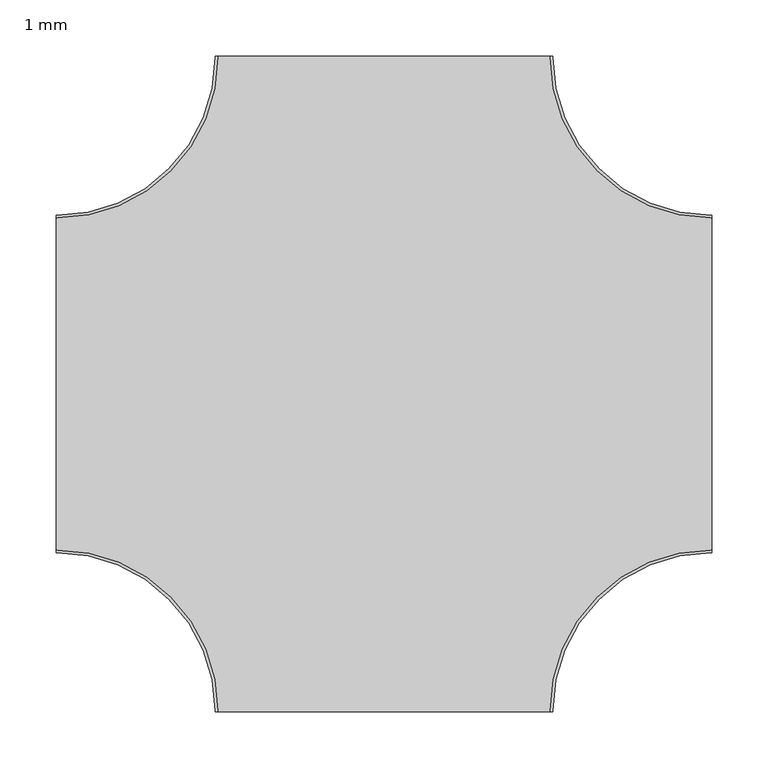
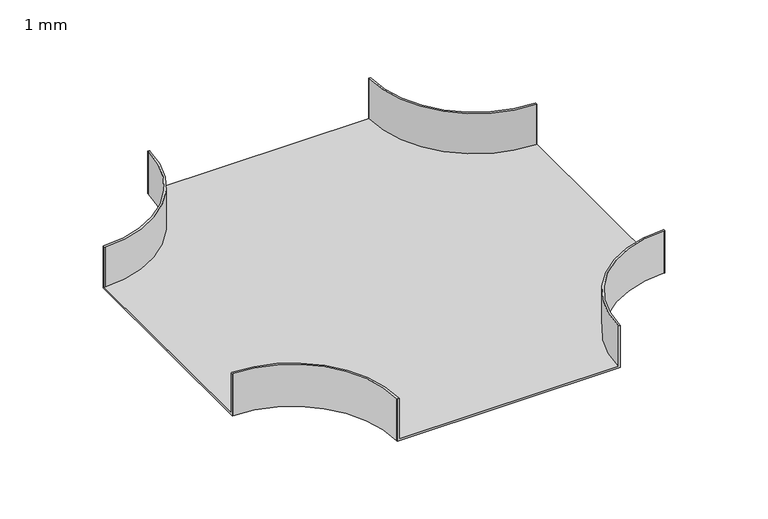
"""IFC4 building model written with IfcOpenShell, lengths in millimetres: cable carrier fitting geometry, BAKS_Czwórnik_koryta (R140) : 1 mm."""

from ifc_helpers import new_model, si_unit, frame, origin, place, context, project, spatial, polyline, circle_curve, source, transform, mapped, element, save
from ifc_brep_helpers import plane_surface, cylinder_surface, revolved_surface, advanced_brep


def cable_carrier_fitting_1_mm_367de262(model_context):
    return source(origin(), model_context, "Body", "AdvancedBrep", [
        advanced_brep(
        [(-150.0, -290.0, 30.0), (-150.0, -291.0, 30.0), (-147.46, -291.0, 30.0), (-147.46, -290.0, 30.0), (-290.0, -147.46, 30.0), (-291.0, -147.46, 30.0), (-291.0, -150.0, 30.0), (-290.0, -150.0, 30.0), (150.0, -290.0, 30.0), (290.0, -150.0, 30.0), (291.0, -150.0, 30.0), (291.0, -147.46, 30.0), (290.0, -147.46, 30.0), (147.46, -290.0, 30.0), (147.46, -291.0, 30.0), (150.0, -291.0, 30.0), (-290.0, 150.0, 30.0), (-291.0, 150.0, 30.0), (-291.0, 147.46, 30.0), (-290.0, 147.46, 30.0), (-147.46, 290.0, 30.0), (-147.46, 291.0, 30.0), (-150.0, 291.0, 30.0), (-150.0, 290.0, 30.0), (147.46, 290.0, 30.0), (290.0, 147.46, 30.0), (291.0, 147.46, 30.0), (291.0, 150.0, 30.0), (290.0, 150.0, 30.0), (150.0, 290.0, 30.0), (150.0, 291.0, 30.0), (147.46, 291.0, 30.0), (-150.0, -290.0, -30.0), (-290.0, -150.0, -30.0), (-291.0, -150.0, -30.0), (-291.0, 150.0, -30.0), (-290.0, 150.0, -30.0), (-150.0, 290.0, -30.0), (-150.0, 291.0, -30.0), (150.0, 291.0, -30.0), (150.0, 290.0, -30.0), (290.0, 150.0, -30.0), (291.0, 150.0, -30.0), (291.0, -150.0, -30.0), (290.0, -150.0, -30.0), (150.0, -290.0, -30.0), (150.0, -291.0, -30.0), (-150.0, -291.0, -30.0), (-150.0, -290.0, -27.46), (147.46, -291.0, -27.46), (-147.46, -291.0, -27.46), (-147.46, -290.0, -27.46), (-290.0, -147.46, -27.46), (-291.0, -147.46, -27.46), (-291.0, 147.46, -27.46), (-290.0, -150.0, -27.46), (150.0, -290.0, -27.46), (290.0, -150.0, -27.46), (291.0, 147.46, -27.46), (291.0, -147.46, -27.46), (290.0, -147.46, -27.46), (147.46, -290.0, -27.46), (290.0, 147.46, -27.46), (147.46, 290.0, -27.46), (147.46, 291.0, -27.46), (-147.46, 291.0, -27.46), (-147.46, 290.0, -27.46), (-290.0, 147.46, -27.46), (-290.0, 150.0, -27.46), (-150.0, 290.0, -27.46), (290.0, 150.0, -27.46), (150.0, 290.0, -27.46)],
        [
            (0, 1),
            (1, 2),
            (2, 3),
            (3, 4, circle_curve(frame((-290.0, -290.0, 30.0), z_axis=(0.0, 0.0, 1.0), x_axis=(1.0, 0.0, 0.0)), 142.54)),
            (4, 5),
            (5, 6),
            (6, 7),
            (7, 0, circle_curve(frame((-290.0, -290.0, 30.0), z_axis=(0.0, 0.0, -1.0), x_axis=(1.0, 0.0, 0.0)), 140.0)),
            (8, 9, circle_curve(frame((290.0, -290.0, 30.0), z_axis=(0.0, 0.0, -1.0), x_axis=(1.0, 0.0, 0.0)), 140.0)),
            (9, 10),
            (10, 11),
            (11, 12),
            (12, 13, circle_curve(frame((290.0, -290.0, 30.0), z_axis=(0.0, 0.0, 1.0), x_axis=(1.0, 0.0, 0.0)), 142.54)),
            (13, 14),
            (14, 15),
            (15, 8),
            (16, 17),
            (17, 18),
            (18, 19),
            (19, 20, circle_curve(frame((-290.0, 290.0, 30.0), z_axis=(0.0, 0.0, 1.0), x_axis=(1.0, 0.0, 0.0)), 142.54)),
            (20, 21),
            (21, 22),
            (22, 23),
            (23, 16, circle_curve(frame((-290.0, 290.0, 30.0), z_axis=(0.0, 0.0, -1.0), x_axis=(1.0, 0.0, 0.0)), 140.0)),
            (24, 25, circle_curve(frame((290.0, 290.0, 30.0), z_axis=(0.0, 0.0, 1.0), x_axis=(1.0, 0.0, 0.0)), 142.54)),
            (25, 26),
            (26, 27),
            (27, 28),
            (28, 29, circle_curve(frame((290.0, 290.0, 30.0), z_axis=(0.0, 0.0, -1.0), x_axis=(1.0, 0.0, 0.0)), 140.0)),
            (29, 30),
            (30, 31),
            (31, 24),
            (32, 33, circle_curve(frame((-290.0, -290.0, -30.0), z_axis=(0.0, 0.0, 1.0), x_axis=(1.0, 0.0, 0.0)), 140.0)),
            (33, 34),
            (34, 35),
            (35, 36),
            (36, 37, circle_curve(frame((-290.0, 290.0, -30.0), z_axis=(0.0, 0.0, 1.0), x_axis=(1.0, 0.0, 0.0)), 140.0)),
            (37, 38),
            (38, 39),
            (39, 40),
            (40, 41, circle_curve(frame((290.0, 290.0, -30.0), z_axis=(0.0, 0.0, 1.0), x_axis=(1.0, 0.0, 0.0)), 140.0)),
            (41, 42),
            (42, 43),
            (43, 44),
            (44, 45, circle_curve(frame((290.0, -290.0, -30.0), z_axis=(0.0, 0.0, 1.0), x_axis=(1.0, 0.0, 0.0)), 140.0)),
            (45, 46),
            (46, 47),
            (47, 32),
            (47, 1),
            (0, 48),
            (48, 32),
            (46, 15),
            (14, 49),
            (49, 50),
            (50, 2),
            (50, 51),
            (51, 3),
            (51, 52, circle_curve(frame((-290.0, -290.0, -27.46), z_axis=(0.0, 0.0, 1.0), x_axis=(1.0, 0.0, 0.0)), 142.54)),
            (52, 4),
            (52, 53),
            (53, 5),
            (53, 54),
            (54, 18),
            (17, 35),
            (34, 6),
            (33, 55),
            (55, 7),
            (8, 56),
            (56, 45),
            (44, 57),
            (57, 9),
            (43, 10),
            (42, 27),
            (26, 58),
            (58, 59),
            (59, 11),
            (59, 60),
            (60, 12),
            (60, 61, circle_curve(frame((290.0, -290.0, -27.46), z_axis=(0.0, 0.0, 1.0), x_axis=(1.0, 0.0, 0.0)), 142.54)),
            (61, 13),
            (61, 49),
            (58, 62),
            (62, 63, circle_curve(frame((290.0, 290.0, -27.46), z_axis=(0.0, 0.0, -1.0), x_axis=(1.0, 0.0, 0.0)), 142.54)),
            (63, 64),
            (64, 65),
            (65, 66),
            (66, 67, circle_curve(frame((-290.0, 290.0, -27.46), z_axis=(0.0, 0.0, -1.0), x_axis=(1.0, 0.0, 0.0)), 142.54)),
            (67, 54),
            (16, 68),
            (68, 36),
            (67, 19),
            (66, 20),
            (65, 21),
            (64, 31),
            (30, 39),
            (38, 22),
            (37, 69),
            (69, 23),
            (24, 63),
            (62, 25),
            (41, 70),
            (70, 28),
            (40, 71),
            (71, 29),
        ],
        [
            plane_surface(frame((-150.0, -290.0, 30.0), z_axis=(0.0, 0.0, 1.0), x_axis=(0.0, -1.0, 0.0))),
            plane_surface(frame((-150.0, -290.0, -30.0), z_axis=(0.0, 0.0, -1.0), x_axis=(0.0, 1.0, 0.0))),
            plane_surface(frame((-150.0, -290.0, 30.0), z_axis=(-1.0, 0.0, 0.0), x_axis=(0.0, 0.0, -1.0))),
            plane_surface(frame((-150.0, -291.0, 30.0), z_axis=(0.0, -1.0, 0.0), x_axis=(0.0, 0.0, -1.0))),
            plane_surface(frame((-147.46, -291.0, 30.0), z_axis=(1.0, 0.0, 0.0), x_axis=(0.0, 0.0, -1.0))),
            cylinder_surface(frame((-290.0, -290.0, -30.0), z_axis=(0.0, 0.0, 1.0), x_axis=(1.0, 0.0, 0.0)), 142.54),
            plane_surface(frame((-290.0, -147.46, 30.0), z_axis=(0.0, 1.0, 0.0), x_axis=(0.0, 0.0, -1.0))),
            plane_surface(frame((-291.0, -147.46, 30.0), z_axis=(-1.0, 0.0, 0.0), x_axis=(0.0, 0.0, -1.0))),
            plane_surface(frame((-291.0, -150.0, 30.0), z_axis=(2.8594460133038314e-12, -1.0, 0.0), x_axis=(0.0, 0.0, -1.0))),
            revolved_surface(polyline([(-150.0, -290.0, -30.0), (-150.0, -290.0, 30.0)]), (-290.0, -290.0, -30.0), (0.0, 0.0, -1.0)),
            revolved_surface(polyline([(430.0, -290.0, -30.0), (430.0, -290.0, 30.0)]), (290.0, -290.0, 0.0), (0.0, 0.0, -1.0)),
            plane_surface(frame((290.0, -150.0, 30.0), z_axis=(-2.8594460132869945e-12, -1.0, 0.0), x_axis=(0.0, 0.0, -1.0))),
            plane_surface(frame((291.0, -150.0, 30.0), z_axis=(1.0, 0.0, 0.0), x_axis=(0.0, 0.0, -1.0))),
            plane_surface(frame((291.0, -147.46, 30.0), z_axis=(0.0, 1.0, 0.0), x_axis=(0.0, 0.0, -1.0))),
            cylinder_surface(frame((290.0, -290.0, 0.0), z_axis=(0.0, 0.0, 1.0), x_axis=(1.0, 0.0, 0.0)), 142.54),
            plane_surface(frame((147.46, -290.0, 30.0), z_axis=(-1.0, 0.0, 0.0), x_axis=(0.0, 0.0, -1.0))),
            plane_surface(frame((150.0, -291.0, 30.0), z_axis=(1.0, 0.0, 0.0), x_axis=(0.0, 0.0, -1.0))),
            plane_surface(frame((-150.0, -290.0, -27.46), z_axis=(0.0, 0.0, 1.0), x_axis=(0.0, -1.0, 0.0))),
            plane_surface(frame((-290.0, 150.0, 30.0), z_axis=(1.2842127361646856e-11, 1.0, 0.0), x_axis=(0.0, 0.0, -1.0))),
            plane_surface(frame((-291.0, 147.46, 30.0), z_axis=(-1.5278578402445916e-11, -1.0, 0.0), x_axis=(0.0, 0.0, -1.0))),
            cylinder_surface(frame((-290.0, 290.0, 0.0), z_axis=(0.0, 0.0, 1.0), x_axis=(1.0, 0.0, 0.0)), 142.54),
            plane_surface(frame((-147.46, 290.0, 30.0), z_axis=(1.0, 0.0, 0.0), x_axis=(0.0, 0.0, -1.0))),
            plane_surface(frame((-147.46, 291.0, 30.0), z_axis=(0.0, 1.0, 0.0), x_axis=(0.0, 0.0, -1.0))),
            plane_surface(frame((-150.0, 291.0, 30.0), z_axis=(-1.0, 0.0, 0.0), x_axis=(0.0, 0.0, -1.0))),
            revolved_surface(polyline([(-150.0, 290.0, -30.0), (-150.0, 290.0, 30.0)]), (-290.0, 290.0, 0.0), (0.0, 0.0, -1.0)),
            cylinder_surface(frame((290.0, 290.0, 0.0), z_axis=(0.0, 0.0, 1.0), x_axis=(1.0, 0.0, 0.0)), 142.54),
            plane_surface(frame((290.0, 147.46, 30.0), z_axis=(0.0, -1.0, 0.0), x_axis=(0.0, 0.0, -1.0))),
            plane_surface(frame((291.0, 150.0, 30.0), z_axis=(0.0, 1.0, 0.0), x_axis=(0.0, 0.0, -1.0))),
            revolved_surface(polyline([(430.0, 290.0, -30.0), (430.0, 290.0, 30.0)]), (290.0, 290.0, 0.0), (0.0, 0.0, -1.0)),
            plane_surface(frame((150.0, 290.0, 30.0), z_axis=(1.0, 2.487210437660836e-12, 0.0), x_axis=(0.0, 0.0, -1.0))),
            plane_surface(frame((147.46, 291.0, 30.0), z_axis=(-1.0, -3.367039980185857e-12, 0.0), x_axis=(0.0, 0.0, -1.0))),
        ],
        [
            (0, [[1, 2, 3, 4, 5, 6, 7, 8]]),
            (0, [[9, 10, 11, 12, 13, 14, 15, 16]]),
            (0, [[17, 18, 19, 20, 21, 22, 23, 24]]),
            (0, [[25, 26, 27, 28, 29, 30, 31, 32]]),
            (1, [[33, 34, 35, 36, 37, 38, 39, 40, 41, 42, 43, 44, 45, 46, 47, 48]]),
            (2, [[49, -1, 50, 51, -48]]),
            (3, [[-2, -49, -47, 52, -15, 53, 54, 55]]),
            (4, [[-3, -55, 56, 57]]),
            (5, [[-4, -57, 58, 59]]),
            (6, [[-5, -59, 60, 61]]),
            (7, [[-6, -61, 62, 63, -18, 64, -35, 65]]),
            (8, [[-7, -65, -34, 66, 67]]),
            (9, [[-8, -67, -66, -33, -51, -50]]),
            (10, [[-9, 68, 69, -45, 70, 71]]),
            (11, [[72, -10, -71, -70, -44]]),
            (12, [[-11, -72, -43, 73, -27, 74, 75, 76]]),
            (13, [[-12, -76, 77, 78]]),
            (14, [[-13, -78, 79, 80]]),
            (15, [[-14, -80, 81, -53]]),
            (16, [[-16, -52, -46, -69, -68]]),
            (17, [[-54, -81, -79, -77, -75, 82, 83, 84, 85, 86, 87, 88, -62, -60, -58, -56]]),
            (18, [[-64, -17, 89, 90, -36]]),
            (19, [[-19, -63, -88, 91]]),
            (20, [[-20, -91, -87, 92]]),
            (21, [[-21, -92, -86, 93]]),
            (22, [[-22, -93, -85, 94, -31, 95, -39, 96]]),
            (23, [[-23, -96, -38, 97, 98]]),
            (24, [[-24, -98, -97, -37, -90, -89]]),
            (25, [[-25, 99, -83, 100]]),
            (26, [[-26, -100, -82, -74]]),
            (27, [[-28, -73, -42, 101, 102]]),
            (28, [[-29, -102, -101, -41, 103, 104]]),
            (29, [[-95, -30, -104, -103, -40]]),
            (30, [[-32, -94, -84, -99]]),
        ],
    ),
    ])


if __name__ == "__main__":
    model = new_model("IFC4")
    model_context = context("Model", 3, world=origin())
    ifc_project = project(units=[si_unit("LENGTHUNIT", "METRE", prefix="MILLI")], contexts=[model_context])
    site = spatial("IfcSite", under=ifc_project)
    building = spatial("IfcBuilding", under=site)
    placement = place(None, origin())
    cable_carrier_fitting_1_mm_shape = cable_carrier_fitting_1_mm_367de262(model_context)
    element("IfcCableCarrierFitting", 1, ObjectType="BAKS_Czwórnik_koryta (R140) : 1 mm", at=placement, inside=building, context=model_context, shape_type="MappedRepresentation", body=[
        mapped(cable_carrier_fitting_1_mm_shape, transform((0.0, 0.0, 0.0), x_axis=(1.0, 0.0, 0.0), y_axis=(0.0, 1.0, 0.0), z_axis=(0.0, 0.0, 1.0))),
    ])
    save(model, "model.ifc")
